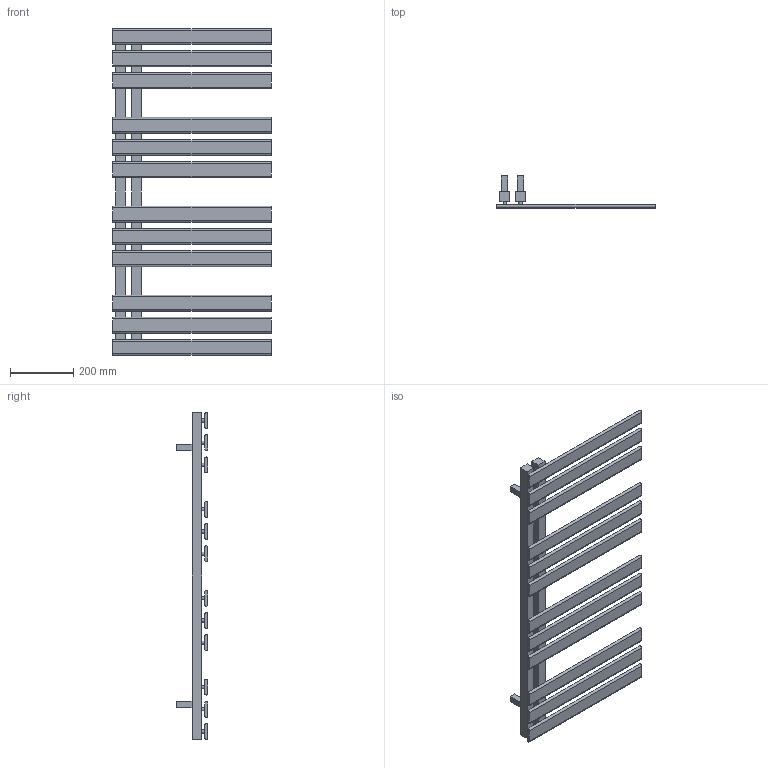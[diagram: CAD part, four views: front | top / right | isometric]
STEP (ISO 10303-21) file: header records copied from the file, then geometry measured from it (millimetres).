
FILE_DESCRIPTION( ( 'Unknown' ), '1' );
FILE_NAME( 'D:/Alplast sp. j/Witryna zespoBu - Projekty/Archiwum/Grzejniki Archiwum/Projekty/DESIGN PROGRAM/BRUNO KOLOR/BRUNO KOLOR 2.stp', 'Unknown', ( 'Unknown' ), ( 'Unknown' ), 'PSStep 10.1', 'Unknown', ' ' );
FILE_SCHEMA( ( 'AUTOMOTIVE_DESIGN { 1 0 10303 214 1 1 1 1 }' ) );
Length unit declared in the file: millimetre
Products named in the file (1): 1
Bounding box: 500 x 100 x 1030 mm (x, y, z)
Volume: 4824088.5 mm3; surface area: 950550.4 mm2
Topology: 1 solids, 1 shells, 128 faces, 312 edges, 216 vertices
Faces by surface type: plane 80, cylinder 48
Full cylindrical faces by diameter (mm): 10 x24
Entity records: 4552 total; most frequent: DIRECTION 618, CARTESIAN_POINT 585, ORIENTED_EDGE 528, EDGE_CURVE 264, AXIS2_PLACEMENT_3D 225, EDGE_LOOP 204, VERTEX_POINT 192, LINE 168
